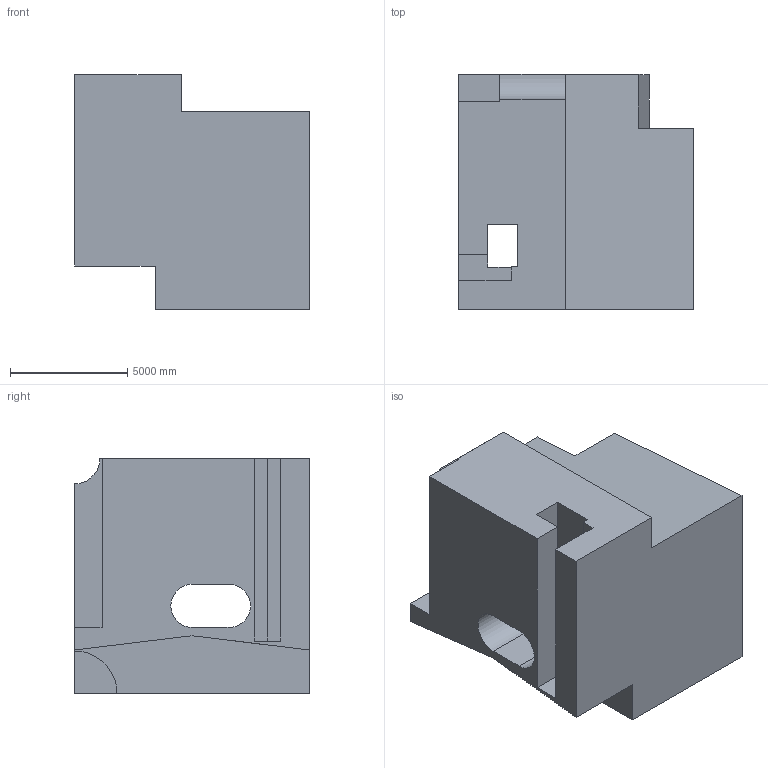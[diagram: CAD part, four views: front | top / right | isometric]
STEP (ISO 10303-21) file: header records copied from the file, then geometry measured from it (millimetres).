
FILE_DESCRIPTION (( 'STEP AP203' ), '1' );
FILE_NAME ('890.STEP', '2022-08-04T16:09:41', ( 'user' ), ( '' ), 'SwSTEP 2.0', 'SolidWorks 2021', '' );
FILE_SCHEMA (( 'CONFIG_CONTROL_DESIGN' ));
Length unit declared in the file: centimetre
Products named in the file (1): 890
Bounding box: 10000 x 10000 x 10000 mm (x, y, z)
Volume: 670605352792.4 mm3; surface area: 673490633.4 mm2
Topology: 1 solids, 1 shells, 34 faces, 105 edges, 70 vertices
Faces by surface type: plane 29, cylinder 5
Entity records: 1248 total; most frequent: ORIENTED_EDGE 210, CARTESIAN_POINT 210, DIRECTION 185, EDGE_CURVE 105, VECTOR 95, LINE 95, VERTEX_POINT 70, AXIS2_PLACEMENT_3D 45
